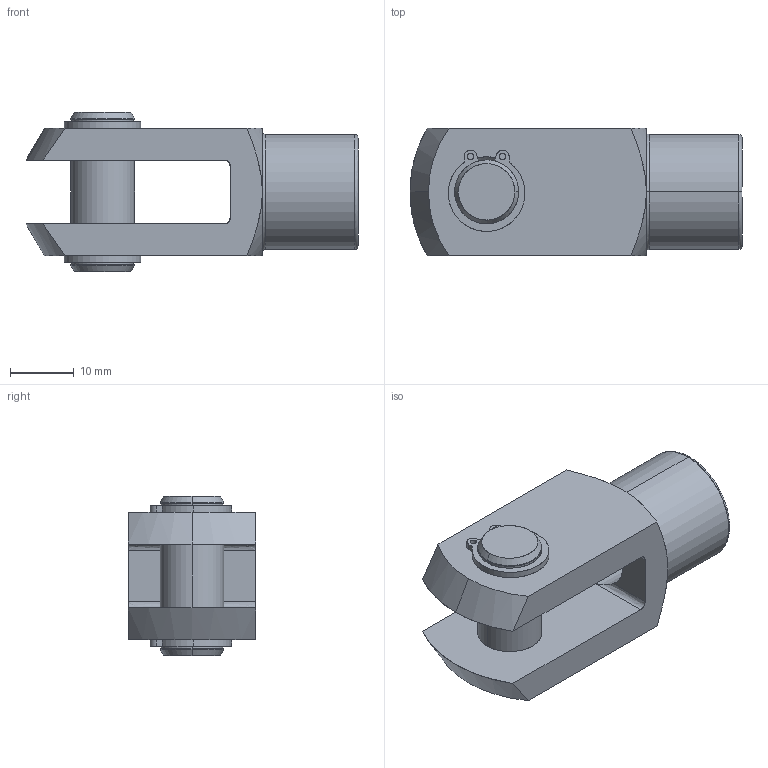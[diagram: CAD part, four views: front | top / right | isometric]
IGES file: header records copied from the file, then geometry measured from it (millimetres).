
Start section: SolidWorks IGES file using analytic representation for surfaces
Global section: file name: C:\Documents and Settings\IANO\My Documents\Wix and Auto CAD Work\CAD Models\Parametric Models\Wix Models\60000\65614_v2\65614_v2_IGES\65614.W0102.igs; native system: SolidWorks 2009; preprocessor: SolidWorks 2009; author: IANO; date: 140118.103933; units: millimetre
Bounding box: 52 x 20 x 25 mm (x, y, z)
Surface area: 6587 mm2 (no closed solid volume)
Topology: 0 solids, 0 shells, 95 faces, 1528 edges, 1528 vertices
Faces by surface type: revolution 63, bspline 32
